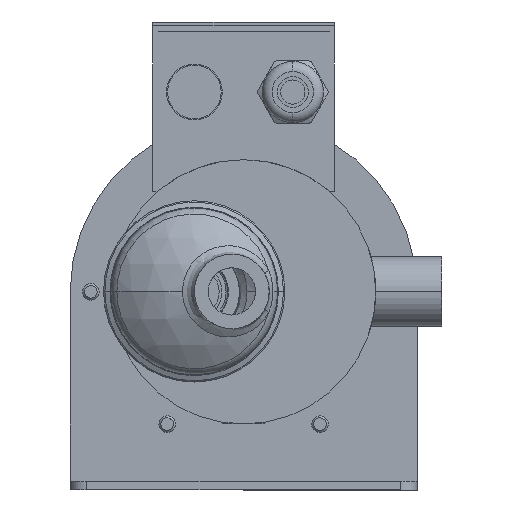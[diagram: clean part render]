
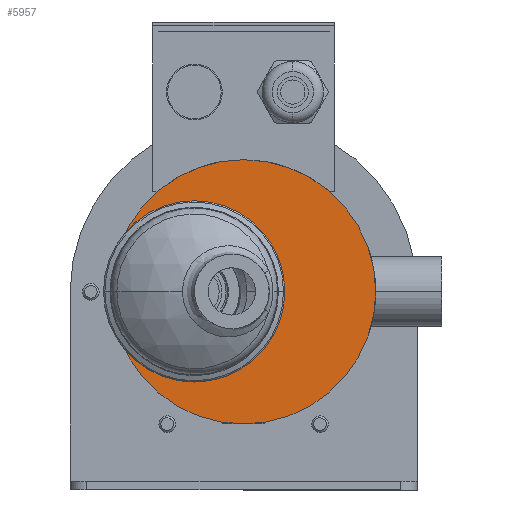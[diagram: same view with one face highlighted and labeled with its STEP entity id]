
A CAD part, front view. The second image highlights one B-rep face of the part: STEP entity #5957.
In plain terms, the highlighted planar face has unit normal (0, -1, 0).
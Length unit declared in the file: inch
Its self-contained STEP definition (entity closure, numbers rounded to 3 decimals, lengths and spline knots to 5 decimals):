
#911 = DIRECTION ( 'NONE',  ( 0., 0., 1. ) ) ;
#1013 = AXIS2_PLACEMENT_3D ( 'NONE', #2454, #16425, #4457 ) ;
#1616 = ORIENTED_EDGE ( 'NONE', *, *, #23456, .F. ) ;
#2454 = CARTESIAN_POINT ( 'NONE',  ( -0.75, -8.305, 0. ) ) ;
#3085 = DIRECTION ( 'NONE',  ( 0., 1., 0. ) ) ;
#3627 = VERTEX_POINT ( 'NONE', #25721 ) ;
#4457 = DIRECTION ( 'NONE',  ( 0., 0., 1. ) ) ;
#4883 = CIRCLE ( 'NONE', #13661, 2. ) ;
#5957 = ADVANCED_FACE ( 'NONE', ( #18110, #7493 ), #11855, .F. ) ;
#6311 = CARTESIAN_POINT ( 'NONE',  ( 0., -8.305, 0. ) ) ;
#7185 = EDGE_CURVE ( 'NONE', #9872, #21749, #4883, .T. ) ;
#7493 = FACE_BOUND ( 'NONE', #16771, .T. ) ;
#8316 = DIRECTION ( 'NONE',  ( 0., 0., 1. ) ) ;
#8989 = EDGE_LOOP ( 'NONE', ( #1616, #17862 ) ) ;
#9123 = CARTESIAN_POINT ( 'NONE',  ( 0., -8.305, -2. ) ) ;
#9458 = AXIS2_PLACEMENT_3D ( 'NONE', #23932, #11937, #25890 ) ;
#9675 = CIRCLE ( 'NONE', #18774, 2. ) ;
#9872 = VERTEX_POINT ( 'NONE', #15259 ) ;
#11855 = PLANE ( 'NONE',  #9458 ) ;
#11937 = DIRECTION ( 'NONE',  ( 0., 1., 0. ) ) ;
#12920 = DIRECTION ( 'NONE',  ( 0., 1., 0. ) ) ;
#13661 = AXIS2_PLACEMENT_3D ( 'NONE', #6311, #20256, #8316 ) ;
#13734 = EDGE_CURVE ( 'NONE', #14099, #3627, #15980, .T. ) ;
#14099 = VERTEX_POINT ( 'NONE', #24806 ) ;
#14717 = ORIENTED_EDGE ( 'NONE', *, *, #17924, .T. ) ;
#15025 = CARTESIAN_POINT ( 'NONE',  ( 0., -8.305, 0. ) ) ;
#15259 = CARTESIAN_POINT ( 'NONE',  ( 0., -8.305, 2. ) ) ;
#15980 = CIRCLE ( 'NONE', #1013, 0.425 ) ;
#16425 = DIRECTION ( 'NONE',  ( 0., 1., 0. ) ) ;
#16771 = EDGE_LOOP ( 'NONE', ( #14717, #21124 ) ) ;
#17076 = DIRECTION ( 'NONE',  ( 0., 0., 1. ) ) ;
#17862 = ORIENTED_EDGE ( 'NONE', *, *, #7185, .F. ) ;
#17924 = EDGE_CURVE ( 'NONE', #3627, #14099, #20027, .T. ) ;
#18110 = FACE_OUTER_BOUND ( 'NONE', #8989, .T. ) ;
#18774 = AXIS2_PLACEMENT_3D ( 'NONE', #15025, #3085, #17076 ) ;
#20027 = CIRCLE ( 'NONE', #23264, 0.425 ) ;
#20256 = DIRECTION ( 'NONE',  ( 0., 1., 0. ) ) ;
#21124 = ORIENTED_EDGE ( 'NONE', *, *, #13734, .T. ) ;
#21749 = VERTEX_POINT ( 'NONE', #9123 ) ;
#23264 = AXIS2_PLACEMENT_3D ( 'NONE', #24893, #12920, #911 ) ;
#23456 = EDGE_CURVE ( 'NONE', #21749, #9872, #9675, .T. ) ;
#23932 = CARTESIAN_POINT ( 'NONE',  ( 0., -8.305, 0. ) ) ;
#24806 = CARTESIAN_POINT ( 'NONE',  ( -0.75, -8.305, -0.425 ) ) ;
#24893 = CARTESIAN_POINT ( 'NONE',  ( -0.75, -8.305, 0. ) ) ;
#25721 = CARTESIAN_POINT ( 'NONE',  ( -0.75, -8.305, 0.425 ) ) ;
#25890 = DIRECTION ( 'NONE',  ( 0., 0., 1. ) ) ;
